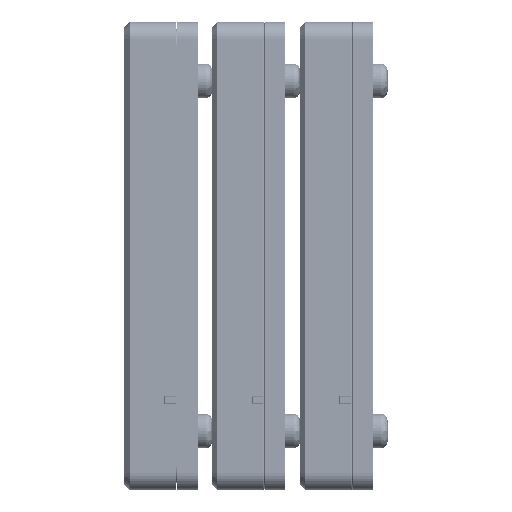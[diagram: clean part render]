
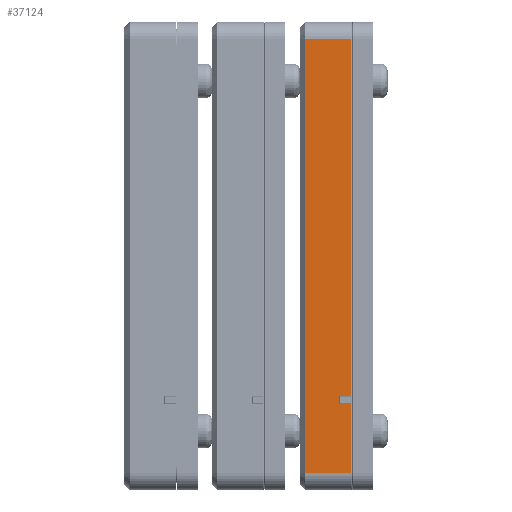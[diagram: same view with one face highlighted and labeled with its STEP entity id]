
A CAD part, left-side view. The second image highlights one B-rep face of the part: STEP entity #37124.
In plain terms, the highlighted planar face has unit normal (-1, 0, 0) as drawn and (1, 0, 0) by its records, which use the part's own axes.
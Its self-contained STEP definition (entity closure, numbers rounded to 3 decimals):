
#286 = VECTOR ( 'NONE', #85171, 1000. ) ;
#371 = VECTOR ( 'NONE', #35102, 1000. ) ;
#773 = DIRECTION ( 'NONE',  ( 0., -1., 0. ) ) ;
#3174 = EDGE_LOOP ( 'NONE', ( #118313, #114093, #46095, #91568, #104201, #80643, #22684, #23381 ) ) ;
#6926 = VERTEX_POINT ( 'NONE', #140428 ) ;
#10388 = LINE ( 'NONE', #138651, #76777 ) ;
#10769 = CARTESIAN_POINT ( 'NONE',  ( 67.5, 15., 62.5 ) ) ;
#13219 = CARTESIAN_POINT ( 'NONE',  ( 67.5, 15., -40.35 ) ) ;
#17072 = DIRECTION ( 'NONE',  ( 0., 0., 1. ) ) ;
#17382 = CARTESIAN_POINT ( 'NONE',  ( 67.5, 11.4, -40.35 ) ) ;
#18200 = LINE ( 'NONE', #96521, #122085 ) ;
#22684 = ORIENTED_EDGE ( 'NONE', *, *, #71434, .T. ) ;
#23381 = ORIENTED_EDGE ( 'NONE', *, *, #87330, .T. ) ;
#28972 = CARTESIAN_POINT ( 'NONE',  ( 67.5, 15., 62.5 ) ) ;
#31721 = DIRECTION ( 'NONE',  ( 0., -1., 0. ) ) ;
#33972 = CARTESIAN_POINT ( 'NONE',  ( 67.5, 11.4, 62.5 ) ) ;
#35102 = DIRECTION ( 'NONE',  ( 0., 1., 0. ) ) ;
#35314 = CARTESIAN_POINT ( 'NONE',  ( 67.5, 1.5, -62.5 ) ) ;
#36934 = VERTEX_POINT ( 'NONE', #109089 ) ;
#37124 = ADVANCED_FACE ( 'NONE', ( #60217 ), #104756, .F. ) ;
#38096 = CARTESIAN_POINT ( 'NONE',  ( 67.5, 15., -42.65 ) ) ;
#39641 = VERTEX_POINT ( 'NONE', #42685 ) ;
#39750 = VERTEX_POINT ( 'NONE', #56468 ) ;
#42272 = VERTEX_POINT ( 'NONE', #50159 ) ;
#42685 = CARTESIAN_POINT ( 'NONE',  ( 67.5, 14.8, 62.5 ) ) ;
#43351 = VECTOR ( 'NONE', #773, 1000. ) ;
#43951 = VERTEX_POINT ( 'NONE', #117962 ) ;
#46095 = ORIENTED_EDGE ( 'NONE', *, *, #135244, .T. ) ;
#47679 = VECTOR ( 'NONE', #75938, 1000. ) ;
#50159 = CARTESIAN_POINT ( 'NONE',  ( 67.5, 14.8, -42.65 ) ) ;
#55392 = EDGE_CURVE ( 'NONE', #6926, #43951, #18200, .T. ) ;
#56468 = CARTESIAN_POINT ( 'NONE',  ( 67.5, 1.5, 62.5 ) ) ;
#56575 = LINE ( 'NONE', #35314, #119572 ) ;
#60217 = FACE_OUTER_BOUND ( 'NONE', #3174, .T. ) ;
#61365 = LINE ( 'NONE', #33972, #47679 ) ;
#61759 = CARTESIAN_POINT ( 'NONE',  ( 67.5, 14.8, 62.5 ) ) ;
#65867 = EDGE_CURVE ( 'NONE', #6926, #42272, #10388, .T. ) ;
#69152 = DIRECTION ( 'NONE',  ( 0., -1., 0. ) ) ;
#71434 = EDGE_CURVE ( 'NONE', #39641, #39750, #137084, .T. ) ;
#73003 = DIRECTION ( 'NONE',  ( 0., 0., 1. ) ) ;
#75938 = DIRECTION ( 'NONE',  ( 0., 0., 1. ) ) ;
#76777 = VECTOR ( 'NONE', #73003, 1000. ) ;
#80643 = ORIENTED_EDGE ( 'NONE', *, *, #114907, .T. ) ;
#82032 = LINE ( 'NONE', #13219, #371 ) ;
#83632 = VERTEX_POINT ( 'NONE', #17382 ) ;
#85171 = DIRECTION ( 'NONE',  ( 0., 0., 1. ) ) ;
#87330 = EDGE_CURVE ( 'NONE', #39750, #43951, #56575, .T. ) ;
#91568 = ORIENTED_EDGE ( 'NONE', *, *, #108356, .T. ) ;
#96521 = CARTESIAN_POINT ( 'NONE',  ( 67.5, 15., -62.5 ) ) ;
#104143 = LINE ( 'NONE', #61759, #286 ) ;
#104201 = ORIENTED_EDGE ( 'NONE', *, *, #107205, .T. ) ;
#104756 = PLANE ( 'NONE',  #140274 ) ;
#107205 = EDGE_CURVE ( 'NONE', #83632, #36934, #82032, .T. ) ;
#108356 = EDGE_CURVE ( 'NONE', #134923, #83632, #61365, .T. ) ;
#109089 = CARTESIAN_POINT ( 'NONE',  ( 67.5, 14.8, -40.35 ) ) ;
#114093 = ORIENTED_EDGE ( 'NONE', *, *, #65867, .T. ) ;
#114340 = VECTOR ( 'NONE', #69152, 1000. ) ;
#114907 = EDGE_CURVE ( 'NONE', #36934, #39641, #104143, .T. ) ;
#115648 = DIRECTION ( 'NONE',  ( -1., 0., 0. ) ) ;
#117768 = LINE ( 'NONE', #38096, #114340 ) ;
#117962 = CARTESIAN_POINT ( 'NONE',  ( 67.5, 1.5, -62.5 ) ) ;
#118250 = CARTESIAN_POINT ( 'NONE',  ( 67.5, 11.4, -42.65 ) ) ;
#118313 = ORIENTED_EDGE ( 'NONE', *, *, #55392, .F. ) ;
#119572 = VECTOR ( 'NONE', #133387, 1000. ) ;
#122085 = VECTOR ( 'NONE', #31721, 1000. ) ;
#133387 = DIRECTION ( 'NONE',  ( 0., 0., -1. ) ) ;
#134923 = VERTEX_POINT ( 'NONE', #118250 ) ;
#135244 = EDGE_CURVE ( 'NONE', #42272, #134923, #117768, .T. ) ;
#137084 = LINE ( 'NONE', #10769, #43351 ) ;
#138651 = CARTESIAN_POINT ( 'NONE',  ( 67.5, 14.8, 62.5 ) ) ;
#140274 = AXIS2_PLACEMENT_3D ( 'NONE', #28972, #115648, #17072 ) ;
#140428 = CARTESIAN_POINT ( 'NONE',  ( 67.5, 14.8, -62.5 ) ) ;
